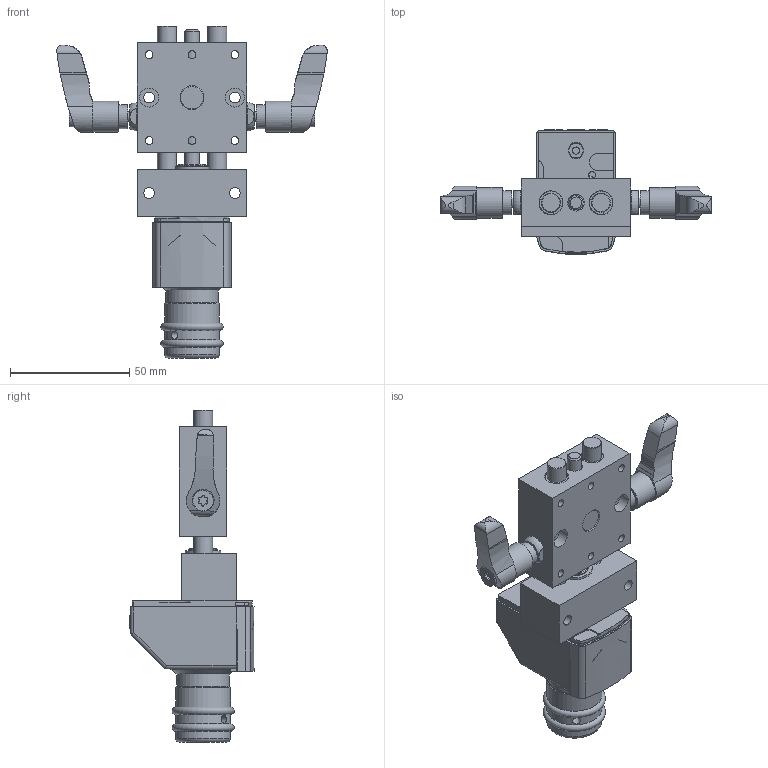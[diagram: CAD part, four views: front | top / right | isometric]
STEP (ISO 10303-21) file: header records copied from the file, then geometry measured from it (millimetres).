
FILE_DESCRIPTION (( 'STEP AP214' ), '1' );
FILE_NAME ('PT1408-PAE-2KH-Positioniertisch.STEP', '2023-11-20T15:54:42', ( '' ), ( '' ), 'SwSTEP 2.0', 'SolidWorks 2019', '' );
FILE_SCHEMA (( 'AUTOMOTIVE_DESIGN' ));
Length unit declared in the file: millimetre
Products named in the file (4): PT08-000-22-Schlitten-komplett-2KH; PT1408-000-01-Festteil-PA(E); PAE0812-DT-000-Elektronischer-Positionsanzeiger-Komplett_n_Standard; PT1408-PAE-2KH-Positioniertisch
Assembly tree (3 placements, depth 2):
  PT1408-PAE-2KH-Positioniertisch
    PT1408-000-01-Festteil-PA(E)
    PAE0812-DT-000-Elektronischer-Positionsanzeiger-Komplett_n_Standard
    PT08-000-22-Schlitten-komplett-2KH
Bounding box: 113.34 x 51.97 x 139.13 mm (x, y, z)
Volume: 122252.4 mm3; surface area: 46291.6 mm2
Topology: 3 solids, 10 shells, 781 faces, 1956 edges, 1296 vertices
Faces by surface type: plane 456, cylinder 254, cone 62, torus 7, sphere 2
Full cylindrical faces by diameter (mm): 2.05 x2, 2.9 x8, 3 x1, 3.242 x1, 3.3 x10, 4 x4, 4.5 x4, 5 x3, 5.6 x1, 6 x6, 6.25 x1, 6.4 x2, 6.5 x2, 6.6 x2, 7 x5, 7.6 x2, 7.8 x1, 8 x14, 8.6 x4, 9 x1, 9.5 x1, 9.7 x2, 9.98 x6, 10 x8, 10.5 x2, 11.5 x1, 12 x2, 12.1 x1, 13 x3, 14 x2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
Entity records: 24179 total; most frequent: CARTESIAN_POINT 6195, DIRECTION 3640, ORIENTED_EDGE 3384, EDGE_CURVE 1692, AXIS2_PLACEMENT_3D 1303, VERTEX_POINT 1209, EDGE_LOOP 1127, LINE 1034
